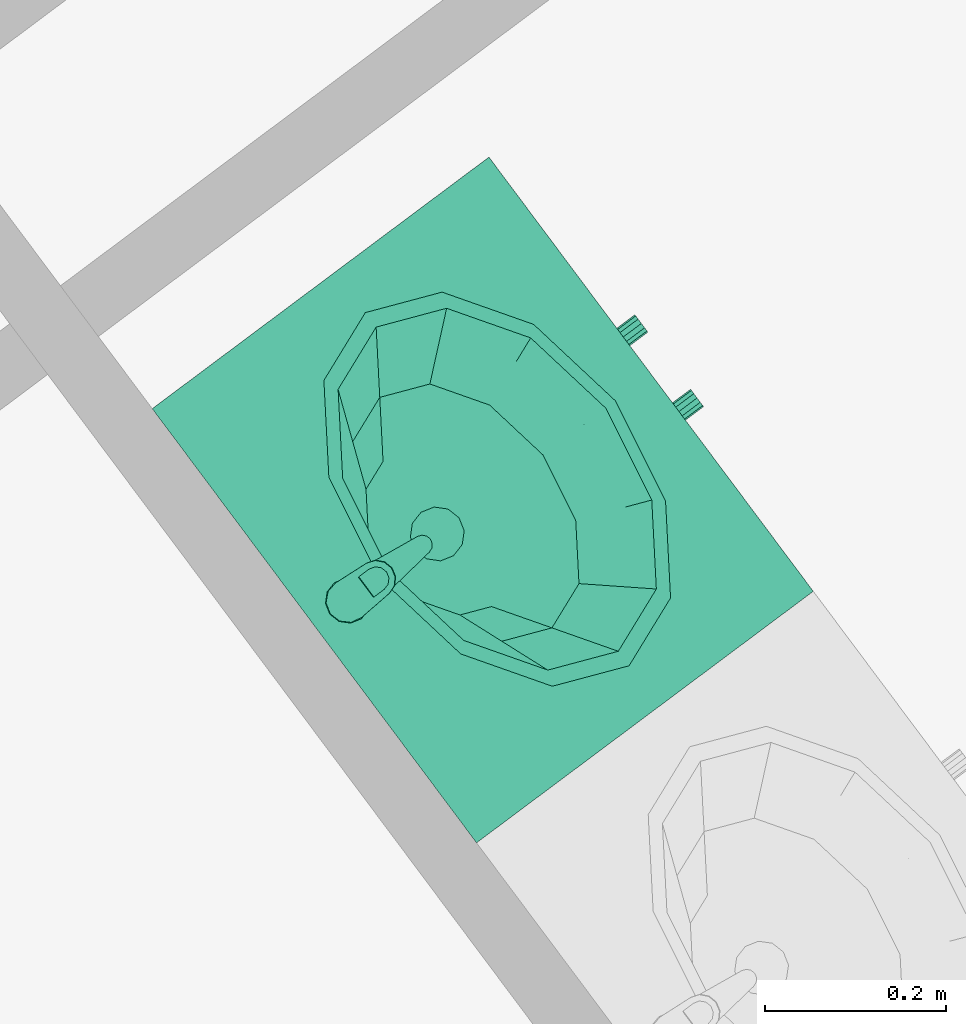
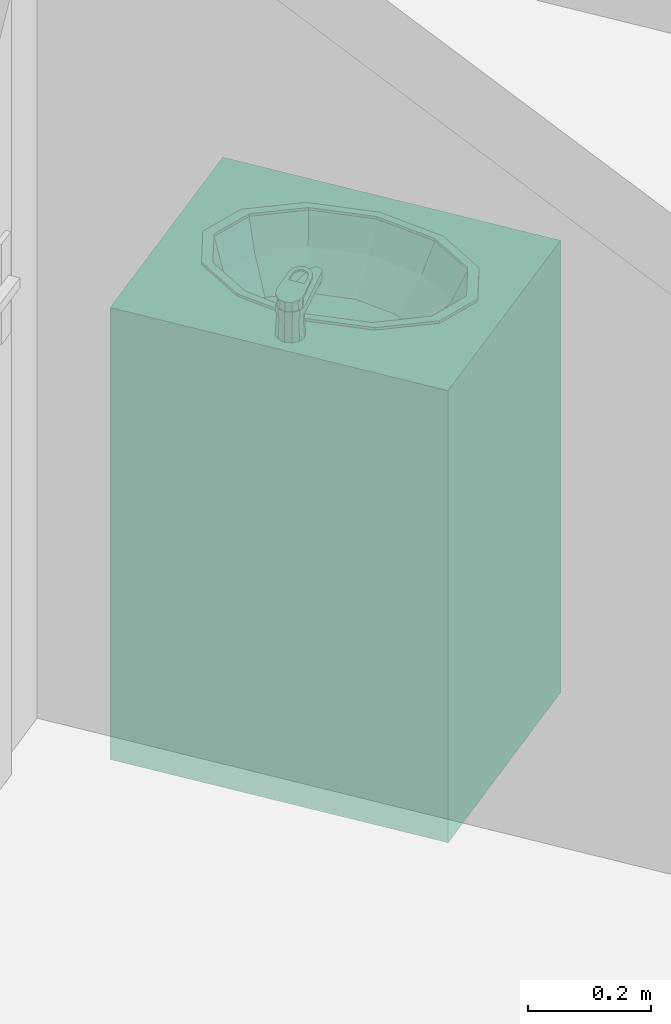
# One storey, part 133 of 195: 1 distribution element.
"""IFC2X3 building model written with IfcOpenShell, lengths in metres."""

from ifc_helpers import new_model, entity, si_unit, converted_unit, derived_unit, money_unit, direction, frame, origin_with_axes, place, context, subcontext, project, spatial, open_shell, faceted_brep, surface_model, source, transform, mapped, type_object, element, save


model = new_model("IFC2X3")

# Units and contexts
model_context = context("Model", 3, precision=1e-05, world=origin_with_axes(), true_north=direction((0.0, 1.0)))
body_context = subcontext(model_context, "Body", "Model", "MODEL_VIEW")
ifc_project = project(units=[si_unit("LENGTHUNIT", "METRE"), si_unit("AREAUNIT", "SQUARE_METRE"), si_unit("VOLUMEUNIT", "CUBIC_METRE"), converted_unit("PLANEANGLEUNIT", "DEGREE", entity("IfcPlaneAngleMeasure", 0.0174532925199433), si_unit("PLANEANGLEUNIT", "RADIAN"), dimensions=[0, 0, 0, 0, 0, 0, 0]), money_unit("CHF"), converted_unit("TIMEUNIT", "Year", entity("IfcTimeMeasure", 31557600.0), si_unit("TIMEUNIT", "SECOND"), dimensions=[0, 0, 1, 0, 0, 0, 0]), si_unit("MASSUNIT", "GRAM", prefix="KILO"), si_unit("THERMODYNAMICTEMPERATUREUNIT", "DEGREE_CELSIUS"), si_unit("LUMINOUSINTENSITYUNIT", "LUMEN"), si_unit("ENERGYUNIT", "JOULE", prefix="MEGA"), derived_unit("THERMALCONDUCTANCEUNIT", [(si_unit("POWERUNIT", "WATT"), 1), (si_unit("LENGTHUNIT", "METRE"), -1), (si_unit("THERMODYNAMICTEMPERATUREUNIT", "KELVIN"), -1)]), derived_unit("SPECIFICHEATCAPACITYUNIT", [(si_unit("ENERGYUNIT", "JOULE"), 1), (si_unit("MASSUNIT", "GRAM", prefix="KILO"), -1), (si_unit("THERMODYNAMICTEMPERATUREUNIT", "KELVIN"), -1)]), derived_unit("MASSDENSITYUNIT", [(si_unit("MASSUNIT", "GRAM", prefix="KILO"), 1), (si_unit("VOLUMEUNIT", "CUBIC_METRE"), -1)])], contexts=[model_context])

# Site, building, storey
site_placement = place(None, origin_with_axes())
site = spatial("IfcSite", under=ifc_project, at=site_placement, Name="Site", CompositionType="ELEMENT")
building_placement = place(site_placement, origin_with_axes())
building = spatial("IfcBuilding", under=site, at=building_placement, Name="Bâtiment", CompositionType="ELEMENT")
storey_placement = place(building_placement, origin_with_axes())
storey = spatial("IfcBuildingStorey", under=building, at=storey_placement, Name="rdc", CompositionType="ELEMENT", Elevation=0.0)

# Distribution element
distribution_element_type = type_object("IfcDistributionElementType", Name="Lavabo sur meuble 27")
shared_shape = source(origin_with_axes(), body_context, "Body", "SurfaceModel", [
    faceted_brep([(0.0, 0.0, 0.0), (0.0, 0.0, 0.1), (-0.6, 0.0, 0.1), (-0.6, 0.0, 0.0), (0.0, 0.4653441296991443, 0.0), (0.0, 0.4653441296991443, 0.1), (-0.6, 0.4653441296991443, 0.1), (-0.6, 0.4653441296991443, 0.0)], [[[0, 1, 2, 3]], [[4, 5, 1, 0]], [[1, 5, 6, 2]], [[3, 2, 6, 7]], [[0, 3, 7, 4]], [[7, 6, 5, 4]]]),
    faceted_brep([(0.0, 0.0, 0.1), (0.0, 0.0, 0.12), (-0.02, 0.0, 0.12), (-0.02, 0.0, 0.1), (0.0, 0.4653441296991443, 0.1), (0.0, 0.4653441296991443, 0.12), (-0.02, 0.4653441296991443, 0.12), (-0.58, 0.4653441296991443, 0.12), (-0.6, 0.4653441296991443, 0.12), (-0.6, 0.0, 0.12), (-0.58, 0.0, 0.12), (-0.58, 0.0, 0.1), (-0.6, 0.0, 0.1), (-0.6, 0.4653441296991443, 0.1), (-0.58, 0.4653441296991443, 0.1), (-0.02, 0.4653441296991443, 0.1)], [[[0, 1, 2, 3]], [[4, 5, 1, 0]], [[1, 5, 6, 7, 8, 9, 10, 2]], [[3, 2, 10, 11]], [[0, 3, 11, 12, 13, 14, 15, 4]], [[15, 6, 5, 4]], [[14, 7, 6, 15]], [[13, 8, 7, 14]], [[12, 9, 8, 13]], [[11, 10, 9, 12]]]),
    faceted_brep([(0.0, 0.0, 0.12), (0.0, 0.0, 0.85), (-0.02, 0.0, 0.85), (-0.02, 0.0, 0.12), (0.0, 0.4653441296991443, 0.12), (0.0, 0.4653441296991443, 0.85), (-0.6, 0.4653441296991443, 0.85), (-0.6, 0.0, 0.85), (-0.58, 0.0, 0.85), (-0.58, 0.4453441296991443, 0.85), (-0.02, 0.4453441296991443, 0.85), (-0.02, 0.4453441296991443, 0.12), (-0.58, 0.4453441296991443, 0.12), (-0.58, 0.0, 0.12), (-0.6, 0.0, 0.12), (-0.6, 0.4653441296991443, 0.12)], [[[0, 1, 2, 3]], [[4, 5, 1, 0]], [[1, 5, 6, 7, 8, 9, 10, 2]], [[3, 2, 10, 11]], [[0, 3, 11, 12, 13, 14, 15, 4]], [[15, 6, 5, 4]], [[14, 7, 6, 15]], [[13, 8, 7, 14]], [[12, 9, 8, 13]], [[11, 10, 9, 12]]]),
    faceted_brep([(-0.58, 0.0, 0.3233333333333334), (-0.58, 0.0, 0.3433333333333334), (-0.58, 0.4453441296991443, 0.3433333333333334), (-0.58, 0.4453441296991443, 0.3233333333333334), (-0.02, 0.0, 0.3233333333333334), (-0.02, 0.0, 0.3433333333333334), (-0.02, 0.4453441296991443, 0.3433333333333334), (-0.02, 0.4453441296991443, 0.3233333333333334)], [[[0, 1, 2, 3]], [[4, 5, 1, 0]], [[1, 5, 6, 2]], [[3, 2, 6, 7]], [[0, 3, 7, 4]], [[7, 6, 5, 4]]]),
    faceted_brep([(-0.58, 0.0, 0.5666666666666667), (-0.58, 0.0, 0.5866666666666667), (-0.58, 0.4453441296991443, 0.5866666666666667), (-0.58, 0.4453441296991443, 0.5666666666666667), (-0.02, 0.0, 0.5666666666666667), (-0.02, 0.0, 0.5866666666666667), (-0.02, 0.4453441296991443, 0.5866666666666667), (-0.02, 0.4453441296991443, 0.5666666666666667)], [[[0, 1, 2, 3]], [[4, 5, 1, 0]], [[1, 5, 6, 2]], [[3, 2, 6, 7]], [[0, 3, 7, 4]], [[7, 6, 5, 4]]]),
    faceted_brep([(0.0, 0.4653441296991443, 0.85), (0.0, 0.0, 0.85), (-0.6, 0.0, 0.85), (-0.6, 0.4653441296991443, 0.85), (-0.4124999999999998, 0.08276825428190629, 0.85), (-0.3, 0.06267206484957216, 0.85), (-0.1874999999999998, 0.08276825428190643, 0.85), (-0.1051442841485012, 0.1376720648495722, 0.85), (-0.07499999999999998, 0.2126720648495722, 0.85), (-0.1051442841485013, 0.2876720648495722, 0.85), (-0.1875000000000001, 0.342575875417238, 0.85), (-0.3, 0.3626720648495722, 0.85), (-0.4125, 0.3425758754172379, 0.85), (-0.4948557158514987, 0.2876720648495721, 0.85), (-0.525, 0.2126720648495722, 0.85), (-0.4948557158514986, 0.137672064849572, 0.85), (0.0, 0.4653441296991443, 0.9), (0.0, 0.0, 0.9), (-0.6, 0.0, 0.9), (-0.6, 0.4653441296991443, 0.9), (-0.3, 0.06267206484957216, 0.9), (-0.4124999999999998, 0.08276825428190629, 0.9), (-0.1874999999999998, 0.08276825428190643, 0.9), (-0.1051442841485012, 0.1376720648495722, 0.9), (-0.07499999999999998, 0.2126720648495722, 0.9), (-0.1051442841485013, 0.2876720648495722, 0.9), (-0.1875000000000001, 0.342575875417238, 0.9), (-0.3, 0.3626720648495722, 0.9), (-0.4125, 0.3425758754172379, 0.9), (-0.4948557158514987, 0.2876720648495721, 0.9), (-0.525, 0.2126720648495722, 0.9), (-0.4948557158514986, 0.137672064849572, 0.9)], [[[0, 1, 2, 3], [4, 5, 6, 7, 8, 9, 10, 11, 12, 13, 14, 15]], [[1, 0, 16, 17]], [[2, 1, 17, 18]], [[3, 2, 18, 19]], [[0, 3, 19, 16]], [[20, 5, 4, 21]], [[22, 6, 5, 20]], [[23, 7, 6, 22]], [[24, 8, 7, 23]], [[25, 9, 8, 24]], [[26, 10, 9, 25]], [[27, 11, 10, 26]], [[28, 12, 11, 27]], [[29, 13, 12, 28]], [[30, 14, 13, 29]], [[31, 15, 14, 30]], [[21, 4, 15, 31]], [[18, 17, 16, 19], [28, 27, 26, 25, 24, 23, 22, 20, 21, 31, 30, 29]]]),
    faceted_brep([(-0.544, 0.2126720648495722, 0.905), (-0.511310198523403, 0.2943684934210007, 0.905), (-0.511310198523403, 0.2943684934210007, 0.9), (-0.544, 0.2126720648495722, 0.9), (-0.5113101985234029, 0.1309756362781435, 0.905), (-0.4219999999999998, 0.07116969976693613, 0.905), (-0.3, 0.04927920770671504, 0.905), (-0.1779999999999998, 0.07116969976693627, 0.905), (-0.08868980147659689, 0.1309756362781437, 0.905), (-0.05599999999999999, 0.2126720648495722, 0.905), (-0.088689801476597, 0.2943684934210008, 0.905), (-0.178, 0.3541744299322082, 0.905), (-0.3, 0.3760649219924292, 0.905), (-0.422, 0.3541744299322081, 0.905), (-0.524, 0.2126720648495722, 0.905), (-0.4939896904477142, 0.2876720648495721, 0.905), (-0.412, 0.3425758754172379, 0.905), (-0.3, 0.3626720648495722, 0.905), (-0.1880000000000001, 0.342575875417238, 0.905), (-0.1060103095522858, 0.2876720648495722, 0.905), (-0.07599999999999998, 0.2126720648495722, 0.905), (-0.1060103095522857, 0.1376720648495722, 0.905), (-0.1879999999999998, 0.08276825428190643, 0.905), (-0.3, 0.06267206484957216, 0.905), (-0.4119999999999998, 0.08276825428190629, 0.905), (-0.4939896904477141, 0.137672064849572, 0.905), (-0.422, 0.3541744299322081, 0.9), (-0.3, 0.3760649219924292, 0.9), (-0.178, 0.3541744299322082, 0.9), (-0.088689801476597, 0.2943684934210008, 0.9), (-0.05599999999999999, 0.2126720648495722, 0.9), (-0.08868980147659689, 0.1309756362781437, 0.9), (-0.1779999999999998, 0.07116969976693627, 0.9), (-0.3, 0.04927920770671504, 0.9), (-0.4219999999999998, 0.07116969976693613, 0.9), (-0.5113101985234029, 0.1309756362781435, 0.9), (-0.524, 0.2126720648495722, 0.9), (-0.4939896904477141, 0.137672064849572, 0.9), (-0.4119999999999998, 0.08276825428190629, 0.9), (-0.3, 0.06267206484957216, 0.9), (-0.1879999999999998, 0.08276825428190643, 0.9), (-0.1060103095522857, 0.1376720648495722, 0.9), (-0.07599999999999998, 0.2126720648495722, 0.9), (-0.1060103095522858, 0.2876720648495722, 0.9), (-0.1880000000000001, 0.342575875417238, 0.9), (-0.3, 0.3626720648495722, 0.9), (-0.412, 0.3425758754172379, 0.9), (-0.4939896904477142, 0.2876720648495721, 0.9)], [[[0, 1, 2, 3]], [[0, 4, 5, 6, 7, 8, 9, 10, 11, 12, 13, 1], [14, 15, 16, 17, 18, 19, 20, 21, 22, 23, 24, 25]], [[1, 13, 26, 2]], [[3, 2, 26, 27, 28, 29, 30, 31, 32, 33, 34, 35], [36, 37, 38, 39, 40, 41, 42, 43, 44, 45, 46, 47]], [[4, 0, 3, 35]], [[5, 4, 35, 34]], [[6, 5, 34, 33]], [[7, 6, 33, 32]], [[8, 7, 32, 31]], [[9, 8, 31, 30]], [[10, 9, 30, 29]], [[11, 10, 29, 28]], [[12, 11, 28, 27]], [[13, 12, 27, 26]], [[15, 14, 36, 47]], [[16, 15, 47, 46]], [[17, 16, 46, 45]], [[18, 17, 45, 44]], [[19, 18, 44, 43]], [[20, 19, 43, 42]], [[21, 20, 42, 41]], [[22, 21, 41, 40]], [[23, 22, 40, 39]], [[24, 23, 39, 38]], [[25, 24, 38, 37]], [[14, 25, 37, 36]]]),
    surface_model("IfcShellBasedSurfaceModel", [(-0.3, 0.3626720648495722, 0.9), (-0.412, 0.342575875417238, 0.9), (-0.4008, 0.3445854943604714, 0.848), (-0.3, 0.3626720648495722, 0.848), (-0.4939896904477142, 0.2876720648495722, 0.9), (-0.4745907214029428, 0.2951720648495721, 0.848), (-0.1879999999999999, 0.3425758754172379, 0.9), (-0.1991999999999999, 0.3445854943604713, 0.848), (-0.524, 0.2126720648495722, 0.9), (-0.5016, 0.2276720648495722, 0.848), (-0.1060103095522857, 0.2876720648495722, 0.9), (-0.1254092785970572, 0.2951720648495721, 0.848), (-0.4939896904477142, 0.1376720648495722, 0.9), (-0.4745907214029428, 0.1601720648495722, 0.848), (-0.07599999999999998, 0.2126720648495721, 0.9), (-0.09839999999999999, 0.2276720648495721, 0.848), (-0.412, 0.08276825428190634, 0.9), (-0.4008, 0.1107586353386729, 0.848), (-0.1060103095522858, 0.1376720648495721, 0.9), (-0.1254092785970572, 0.1601720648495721, 0.848), (-0.3, 0.06267206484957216, 0.9), (-0.3, 0.09267206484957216, 0.848), (-0.1879999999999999, 0.08276825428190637, 0.9), (-0.1992, 0.110758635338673, 0.848)], [open_shell([[[0, 1, 2, 3]], [[1, 4, 5, 2]], [[6, 0, 3, 7]], [[4, 8, 9, 5]], [[10, 6, 7, 11]], [[8, 12, 13, 9]], [[14, 10, 11, 15]], [[12, 16, 17, 13]], [[18, 14, 15, 19]], [[16, 20, 21, 17]], [[22, 18, 19, 23]], [[20, 22, 23, 21]]])]),
    surface_model("IfcShellBasedSurfaceModel", [(-0.3, 0.3626720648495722, 0.848), (-0.4008, 0.3445854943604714, 0.848), (-0.379632, 0.3483836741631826, 0.7959999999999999), (-0.3, 0.3626720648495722, 0.7959999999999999), (-0.4745907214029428, 0.2951720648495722, 0.848), (-0.4379266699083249, 0.3093470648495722, 0.7959999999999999), (-0.1991999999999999, 0.3445854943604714, 0.848), (-0.2203679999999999, 0.3483836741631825, 0.7959999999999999), (-0.5016, 0.2276720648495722, 0.848), (-0.459264, 0.2560220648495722, 0.7959999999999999), (-0.1254092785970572, 0.2951720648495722, 0.848), (-0.1620733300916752, 0.3093470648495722, 0.7959999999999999), (-0.4745907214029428, 0.1601720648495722, 0.848), (-0.4379266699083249, 0.2026970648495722, 0.7959999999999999), (-0.09839999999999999, 0.2276720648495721, 0.848), (-0.140736, 0.2560220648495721, 0.7959999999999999), (-0.4008, 0.1107586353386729, 0.848), (-0.379632, 0.1636604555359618, 0.7959999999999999), (-0.1254092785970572, 0.1601720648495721, 0.848), (-0.1620733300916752, 0.2026970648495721, 0.7959999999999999), (-0.3, 0.09267206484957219, 0.848), (-0.3, 0.1493720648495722, 0.7959999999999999), (-0.1992, 0.110758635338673, 0.848), (-0.220368, 0.1636604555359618, 0.7959999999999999)], [open_shell([[[0, 1, 2, 3]], [[1, 4, 5, 2]], [[6, 0, 3, 7]], [[4, 8, 9, 5]], [[10, 6, 7, 11]], [[8, 12, 13, 9]], [[14, 10, 11, 15]], [[12, 16, 17, 13]], [[18, 14, 15, 19]], [[16, 20, 21, 17]], [[22, 18, 19, 23]], [[20, 22, 23, 21]]])]),
    surface_model("IfcShellBasedSurfaceModel", [(-0.3, 0.3626720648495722, 0.7959999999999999), (-0.379632, 0.3483836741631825, 0.7959999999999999), (-0.35016816, 0.3536703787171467, 0.7699999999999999), (-0.3, 0.3626720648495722, 0.7699999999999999), (-0.4379266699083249, 0.3093470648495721, 0.7959999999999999), (-0.3868938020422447, 0.3290773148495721, 0.7699999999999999), (-0.2203679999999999, 0.3483836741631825, 0.7959999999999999), (-0.2498318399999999, 0.3536703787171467, 0.7699999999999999), (-0.459264, 0.2560220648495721, 0.7959999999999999), (-0.40033632, 0.2954825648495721, 0.7699999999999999), (-0.1620733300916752, 0.3093470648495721, 0.7959999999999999), (-0.2131061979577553, 0.3290773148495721, 0.7699999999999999), (-0.4379266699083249, 0.2026970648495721, 0.7959999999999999), (-0.3868938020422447, 0.2618878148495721, 0.7699999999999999), (-0.140736, 0.2560220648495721, 0.7959999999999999), (-0.19966368, 0.2954825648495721, 0.7699999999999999), (-0.379632, 0.1636604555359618, 0.7959999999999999), (-0.35016816, 0.2372947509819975, 0.7699999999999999), (-0.1620733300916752, 0.2026970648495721, 0.7959999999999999), (-0.2131061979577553, 0.2618878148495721, 0.7699999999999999), (-0.3, 0.1493720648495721, 0.7959999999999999), (-0.3, 0.2282930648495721, 0.7699999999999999), (-0.220368, 0.1636604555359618, 0.7959999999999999), (-0.24983184, 0.2372947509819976, 0.7699999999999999)], [open_shell([[[0, 1, 2, 3]], [[1, 4, 5, 2]], [[6, 0, 3, 7]], [[4, 8, 9, 5]], [[10, 6, 7, 11]], [[8, 12, 13, 9]], [[14, 10, 11, 15]], [[12, 16, 17, 13]], [[18, 14, 15, 19]], [[16, 20, 21, 17]], [[22, 18, 19, 23]], [[20, 22, 23, 21]]])]),
    surface_model("IfcShellBasedSurfaceModel", [(-0.3, 0.3626720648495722, 0.7699999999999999), (-0.35016816, 0.3536703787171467, 0.7699999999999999), (-0.315, 0.3214633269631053, 0.7629999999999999), (-0.3259807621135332, 0.3104825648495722, 0.7629999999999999), (-0.3, 0.3254825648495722, 0.7629999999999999), (-0.3868938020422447, 0.3290773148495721, 0.7699999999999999), (-0.2498318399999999, 0.3536703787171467, 0.7699999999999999), (-0.33, 0.2954825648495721, 0.7629999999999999), (-0.285, 0.3214633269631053, 0.7629999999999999), (-0.40033632, 0.2954825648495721, 0.7699999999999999), (-0.2131061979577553, 0.3290773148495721, 0.7699999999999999), (-0.3259807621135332, 0.2804825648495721, 0.7629999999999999), (-0.2740192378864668, 0.3104825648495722, 0.7629999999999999), (-0.3868938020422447, 0.2618878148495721, 0.7699999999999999), (-0.19966368, 0.2954825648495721, 0.7699999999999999), (-0.315, 0.269501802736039, 0.7629999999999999), (-0.27, 0.2954825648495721, 0.7629999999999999), (-0.35016816, 0.2372947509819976, 0.7699999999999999), (-0.2131061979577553, 0.2618878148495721, 0.7699999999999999), (-0.3, 0.2654825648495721, 0.7629999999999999), (-0.2740192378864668, 0.2804825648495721, 0.7629999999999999), (-0.3, 0.2282930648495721, 0.7699999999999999), (-0.24983184, 0.2372947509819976, 0.7699999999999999), (-0.285, 0.269501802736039, 0.7629999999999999)], [open_shell([[[0, 1, 2]], [[1, 3, 2]], [[0, 2, 4]], [[1, 5, 3]], [[6, 0, 4]], [[5, 7, 3]], [[6, 4, 8]], [[5, 9, 7]], [[10, 6, 8]], [[9, 11, 7]], [[10, 8, 12]], [[9, 13, 11]], [[14, 10, 12]], [[13, 15, 11]], [[14, 12, 16]], [[13, 17, 15]], [[18, 14, 16]], [[17, 19, 15]], [[18, 16, 20]], [[17, 21, 19]], [[22, 18, 20]], [[21, 23, 19]], [[22, 20, 23]], [[21, 22, 23]]])]),
    surface_model("IfcShellBasedSurfaceModel", [(-0.33, 0.2954825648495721, 0.763), (-0.3259807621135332, 0.3104825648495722, 0.763), (-0.3259807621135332, 0.3104825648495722, 0.758), (-0.33, 0.2954825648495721, 0.758), (-0.315, 0.3214633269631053, 0.763), (-0.315, 0.3214633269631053, 0.758), (-0.3, 0.3254825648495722, 0.758), (-0.285, 0.3214633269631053, 0.758), (-0.2740192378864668, 0.3104825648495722, 0.758), (-0.27, 0.2954825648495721, 0.758), (-0.2740192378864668, 0.2804825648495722, 0.758), (-0.285, 0.269501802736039, 0.758), (-0.3, 0.2654825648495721, 0.758), (-0.3149999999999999, 0.269501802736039, 0.758), (-0.3259807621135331, 0.2804825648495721, 0.758), (-0.3259807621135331, 0.2804825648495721, 0.763), (-0.3, 0.3254825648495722, 0.763), (-0.285, 0.3214633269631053, 0.763), (-0.2740192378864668, 0.3104825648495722, 0.763), (-0.27, 0.2954825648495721, 0.763), (-0.2740192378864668, 0.2804825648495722, 0.763), (-0.285, 0.269501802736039, 0.763), (-0.3, 0.2654825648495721, 0.763), (-0.3149999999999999, 0.269501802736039, 0.763)], [open_shell([[[0, 1, 2, 3]], [[1, 4, 5, 2]], [[3, 2, 5, 6, 7, 8, 9, 10, 11, 12, 13, 14]], [[15, 0, 3, 14]], [[4, 16, 6, 5]], [[16, 17, 7, 6]], [[17, 18, 8, 7]], [[18, 19, 9, 8]], [[19, 20, 10, 9]], [[20, 21, 11, 10]], [[21, 22, 12, 11]], [[22, 23, 13, 12]], [[23, 15, 14, 13]]])]),
    faceted_brep([(-0.3125, 0.4406587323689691, 0.9), (-0.310587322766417, 0.4373458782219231, 0.976507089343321), (-0.3, 0.4402100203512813, 0.9759615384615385), (-0.3, 0.4440080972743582, 0.9), (-0.3216506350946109, 0.4315080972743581, 0.9), (-0.3182735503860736, 0.4295583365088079, 0.9779904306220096), (-0.321, 0.4190080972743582, 0.98), (-0.3181003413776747, 0.4085578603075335, 0.9819905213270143), (-0.3104141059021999, 0.400970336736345, 0.9834357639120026), (-0.3, 0.3982062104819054, 0.9839622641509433), (-0.2895858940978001, 0.400970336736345, 0.9834357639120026), (-0.2818996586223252, 0.4085578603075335, 0.9819905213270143), (-0.279, 0.4190080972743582, 0.98), (-0.2817264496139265, 0.4295583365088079, 0.9779904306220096), (-0.289412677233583, 0.4373458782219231, 0.976507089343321), (-0.2875, 0.4406587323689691, 0.9), (-0.278349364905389, 0.4315080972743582, 0.9), (-0.275, 0.4190080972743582, 0.9), (-0.278349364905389, 0.4065080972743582, 0.9), (-0.2875, 0.3973574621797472, 0.9), (-0.3, 0.3940080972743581, 0.9), (-0.3125, 0.3973574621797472, 0.9), (-0.3216506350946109, 0.4065080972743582, 0.9), (-0.325, 0.4190080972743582, 0.9)], [[[0, 1, 2, 3]], [[4, 5, 1, 0]], [[1, 5, 6, 7, 8, 9, 10, 11, 12, 13, 14, 2]], [[3, 2, 14, 15]], [[0, 3, 15, 16, 17, 18, 19, 20, 21, 22, 23, 4]], [[23, 6, 5, 4]], [[22, 7, 6, 23]], [[21, 8, 7, 22]], [[20, 9, 8, 21]], [[19, 10, 9, 20]], [[18, 11, 10, 19]], [[17, 12, 11, 18]], [[16, 13, 12, 17]], [[15, 14, 13, 16]]]),
    faceted_brep([(-0.309, 0.3160080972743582, 0.935), (-0.309, 0.3160080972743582, 0.9450000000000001), (-0.3077942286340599, 0.3205080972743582, 0.9450000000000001), (-0.3077942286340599, 0.3205080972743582, 0.935), (-0.3077942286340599, 0.3115080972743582, 0.935), (-0.3077942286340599, 0.3115080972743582, 0.9450000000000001), (-0.3045, 0.3082138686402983, 0.9450000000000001), (-0.3, 0.3070080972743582, 0.9450000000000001), (-0.2955, 0.3082138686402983, 0.9450000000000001), (-0.2922057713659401, 0.3115080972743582, 0.9450000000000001), (-0.291, 0.3160080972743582, 0.9450000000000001), (-0.2922057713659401, 0.3205080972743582, 0.9450000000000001), (-0.2955, 0.3238023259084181, 0.9450000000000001), (-0.3, 0.3250080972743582, 0.9450000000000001), (-0.3045, 0.3238023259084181, 0.9450000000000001), (-0.3045, 0.3238023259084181, 0.935), (-0.3, 0.3250080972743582, 0.935), (-0.2955, 0.3238023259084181, 0.935), (-0.2922057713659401, 0.3205080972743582, 0.935), (-0.291, 0.3160080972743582, 0.935), (-0.2922057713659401, 0.3115080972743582, 0.935), (-0.2955, 0.3082138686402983, 0.935), (-0.3, 0.3070080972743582, 0.935), (-0.3045, 0.3082138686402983, 0.935)], [[[0, 1, 2, 3]], [[4, 5, 1, 0]], [[1, 5, 6, 7, 8, 9, 10, 11, 12, 13, 14, 2]], [[3, 2, 14, 15]], [[0, 3, 15, 16, 17, 18, 19, 20, 21, 22, 23, 4]], [[23, 6, 5, 4]], [[22, 7, 6, 23]], [[21, 8, 7, 22]], [[20, 9, 8, 21]], [[19, 10, 9, 20]], [[18, 11, 10, 19]], [[17, 12, 11, 18]], [[16, 13, 12, 17]], [[15, 14, 13, 16]]]),
    faceted_brep([(-0.2871282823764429, 0.439264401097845, 0.9600000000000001), (-0.300000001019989, 0.44300807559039, 0.9600000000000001), (-0.3128717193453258, 0.4392644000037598, 0.9600000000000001), (-0.3217278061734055, 0.4292013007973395, 0.9600000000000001), (-0.3238053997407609, 0.4159581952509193, 0.9600000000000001), (-0.310912, 0.3146197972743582, 0.9600000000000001), (-0.309028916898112, 0.3097249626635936, 0.9600000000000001), (-0.3050933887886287, 0.3062584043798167, 0.9600000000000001), (-0.300000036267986, 0.305008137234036, 0.9600000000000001), (-0.2949066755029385, 0.3062583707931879, 0.9600000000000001), (-0.2909711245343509, 0.3097249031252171, 0.9600000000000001), (-0.2890880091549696, 0.3146197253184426, 0.9600000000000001), (-0.2761946, 0.4159581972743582, 0.9600000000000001), (-0.2782721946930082, 0.4292013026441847, 0.9600000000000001), (-0.311, 0.4380606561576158, 0.9600000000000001), (-0.3, 0.4410080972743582, 0.9600000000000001), (-0.289, 0.4380606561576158, 0.9600000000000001), (-0.2809474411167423, 0.4300080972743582, 0.9600000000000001), (-0.278, 0.4190080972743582, 0.9600000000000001), (-0.2809474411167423, 0.4080080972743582, 0.9600000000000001), (-0.289, 0.3999555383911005, 0.9600000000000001), (-0.3, 0.3970080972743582, 0.9600000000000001), (-0.3109999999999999, 0.3999555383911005, 0.9600000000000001), (-0.3190525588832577, 0.4080080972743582, 0.9600000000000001), (-0.322, 0.4190080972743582, 0.9600000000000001), (-0.3190525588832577, 0.4300080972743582, 0.9600000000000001), (-0.2871282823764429, 0.439264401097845, 0.9450000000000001), (-0.300000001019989, 0.44300807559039, 0.9450000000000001), (-0.3128717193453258, 0.4392644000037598, 0.9450000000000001), (-0.3217278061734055, 0.4292013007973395, 0.9450000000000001), (-0.3238053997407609, 0.4159581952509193, 0.9450000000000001), (-0.310912, 0.3146197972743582, 0.9450000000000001), (-0.309028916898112, 0.3097249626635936, 0.9450000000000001), (-0.3050933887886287, 0.3062584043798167, 0.9450000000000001), (-0.300000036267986, 0.305008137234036, 0.9450000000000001), (-0.2949066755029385, 0.3062583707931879, 0.9450000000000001), (-0.2909711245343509, 0.3097249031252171, 0.9450000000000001), (-0.2890880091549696, 0.3146197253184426, 0.9450000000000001), (-0.2761946, 0.4159581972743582, 0.9450000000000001), (-0.2782721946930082, 0.4292013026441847, 0.9450000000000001), (-0.3, 0.4417580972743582, 0.9450000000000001), (-0.311375, 0.4387101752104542, 0.9450000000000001), (-0.288625, 0.4387101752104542, 0.9450000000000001), (-0.280297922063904, 0.4303830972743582, 0.9450000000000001), (-0.2772499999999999, 0.4190080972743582, 0.9450000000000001), (-0.280297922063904, 0.4076330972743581, 0.9450000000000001), (-0.288625, 0.3993060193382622, 0.9450000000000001), (-0.3, 0.3962580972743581, 0.9450000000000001), (-0.311375, 0.3993060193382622, 0.9450000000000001), (-0.319702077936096, 0.4076330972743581, 0.9450000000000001), (-0.32275, 0.4190080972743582, 0.9450000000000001), (-0.319702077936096, 0.4303830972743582, 0.9450000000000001)], [[[0, 1, 2, 3, 4, 5, 6, 7, 8, 9, 10, 11, 12, 13], [14, 15, 16, 17, 18, 19, 20, 21, 22, 23, 24, 25]], [[26, 27, 1, 0]], [[27, 28, 2, 1]], [[28, 29, 3, 2]], [[29, 30, 4, 3]], [[30, 31, 5, 4]], [[31, 32, 6, 5]], [[32, 33, 7, 6]], [[33, 34, 8, 7]], [[34, 35, 9, 8]], [[35, 36, 10, 9]], [[36, 37, 11, 10]], [[37, 38, 12, 11]], [[38, 39, 13, 12]], [[39, 26, 0, 13]], [[40, 15, 14, 41]], [[42, 16, 15, 40]], [[16, 42, 43, 17]], [[17, 43, 44, 18]], [[18, 44, 45, 19]], [[19, 45, 46, 20]], [[20, 46, 47, 21]], [[48, 22, 21, 47]], [[49, 23, 22, 48]], [[50, 24, 23, 49]], [[51, 25, 24, 50]], [[41, 14, 25, 51]], [[34, 33, 32, 31, 30, 29, 28, 27, 26, 39, 38, 37, 36, 35], [48, 47, 46, 45, 44, 43, 42, 40, 41, 51, 50, 49]]]),
    faceted_brep([(-0.323893, 0.4173155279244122, 0.9803223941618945), (-0.323893, 0.4180639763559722, 0.9842517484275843), (-0.3212964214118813, 0.4305312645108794, 0.9818770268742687), (-0.3212964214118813, 0.4297828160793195, 0.9779476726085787), (-0.3209459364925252, 0.377171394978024, 0.9879688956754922), (-0.3209459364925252, 0.377919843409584, 0.9918982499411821), (-0.317663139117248, 0.3682421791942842, 0.9937416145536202), (-0.3100614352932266, 0.3612927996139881, 0.995065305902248), (-0.2999995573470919, 0.3587709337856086, 0.9955456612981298), (-0.289937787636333, 0.3612932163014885, 0.9950652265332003), (-0.2823363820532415, 0.3682429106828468, 0.9937414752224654), (-0.279054, 0.3779207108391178, 0.991898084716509), (-0.2761069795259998, 0.4180642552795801, 0.9842516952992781), (-0.2787037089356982, 0.4305315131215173, 0.9818769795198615), (-0.2875283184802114, 0.4398477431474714, 0.9801024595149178), (-0.3000001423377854, 0.4432885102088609, 0.9794470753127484), (-0.3124719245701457, 0.4398475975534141, 0.9801024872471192), (-0.314, 0.3942157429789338, 0.9887942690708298), (-0.286, 0.3942157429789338, 0.9887942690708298), (-0.286, 0.3794001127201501, 0.9916162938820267), (-0.2878756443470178, 0.3725237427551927, 0.9929260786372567), (-0.293, 0.3674898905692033, 0.9938849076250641), (-0.3, 0.3656473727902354, 0.9942358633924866), (-0.307, 0.3674898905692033, 0.9938849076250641), (-0.3121243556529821, 0.3725237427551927, 0.9929260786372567), (-0.314, 0.3794001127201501, 0.9916162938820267), (-0.3124719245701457, 0.4390991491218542, 0.9761731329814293), (-0.3000001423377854, 0.4425400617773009, 0.9755177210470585), (-0.2875283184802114, 0.4390992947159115, 0.976173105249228), (-0.2787037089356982, 0.4297830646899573, 0.9779476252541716), (-0.2761069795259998, 0.4173158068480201, 0.9803223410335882), (-0.279054, 0.3771722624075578, 0.9879687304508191), (-0.2823363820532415, 0.3674944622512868, 0.9898121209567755), (-0.289937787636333, 0.3605447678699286, 0.9911358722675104), (-0.2999995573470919, 0.3580224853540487, 0.9916163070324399), (-0.3100614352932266, 0.3605443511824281, 0.9911359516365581), (-0.317663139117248, 0.3674937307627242, 0.9898122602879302), (-0.314, 0.3934672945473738, 0.9848649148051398), (-0.314, 0.37865166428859, 0.9876869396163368), (-0.3121243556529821, 0.3717752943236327, 0.9889967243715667), (-0.307, 0.3667414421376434, 0.9899555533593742), (-0.3, 0.3648989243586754, 0.9903065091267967), (-0.293, 0.3667414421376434, 0.9899555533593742), (-0.2878756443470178, 0.3717752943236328, 0.9889967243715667), (-0.286, 0.37865166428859, 0.9876869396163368), (-0.286, 0.3934672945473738, 0.9848649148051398)], [[[0, 1, 2, 3]], [[4, 5, 1, 0]], [[1, 5, 6, 7, 8, 9, 10, 11, 12, 13, 14, 15, 16, 2], [17, 18, 19, 20, 21, 22, 23, 24, 25]], [[3, 2, 16, 26]], [[0, 3, 26, 27, 28, 29, 30, 31, 32, 33, 34, 35, 36, 4], [37, 38, 39, 40, 41, 42, 43, 44, 45]], [[36, 6, 5, 4]], [[35, 7, 6, 36]], [[34, 8, 7, 35]], [[33, 9, 8, 34]], [[32, 10, 9, 33]], [[31, 11, 10, 32]], [[30, 12, 11, 31]], [[29, 13, 12, 30]], [[28, 14, 13, 29]], [[27, 15, 14, 28]], [[26, 16, 15, 27]], [[45, 18, 17, 37]], [[44, 19, 18, 45]], [[43, 20, 19, 44]], [[42, 21, 20, 43]], [[41, 22, 21, 42]], [[40, 23, 22, 41]], [[39, 24, 23, 40]], [[38, 25, 24, 39]], [[37, 17, 25, 38]]]),
    surface_model("IfcShellBasedSurfaceModel", [(-0.001500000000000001, 0.0, 0.1015), (-0.2985, 0.0, 0.1015), (-0.2985, 0.0, 0.8485), (-0.001500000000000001, 0.0, 0.8485)], [open_shell([[[0, 1, 2, 3]]])]),
    faceted_brep([(-0.2588923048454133, 0.0, 0.7855), (-0.2605, 0.0, 0.7915), (-0.2588923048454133, 0.0, 0.7975), (-0.2545, 0.0, 0.8018923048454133), (-0.2485, 0.0, 0.8035), (-0.2425, 0.0, 0.8018923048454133), (-0.2381076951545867, 0.0, 0.7975), (-0.2365, 0.0, 0.7915), (-0.2381076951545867, 0.0, 0.7855), (-0.2425, 0.0, 0.7811076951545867), (-0.2485, 0.0, 0.7795), (-0.2545, 0.0, 0.7811076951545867), (-0.2588923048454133, -0.025, 0.7855), (-0.2605, -0.025, 0.7915), (-0.2588923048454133, -0.025, 0.7975), (-0.2545, -0.025, 0.8018923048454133), (-0.2485, -0.025, 0.8035), (-0.2425, -0.025, 0.8018923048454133), (-0.2381076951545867, -0.025, 0.7975), (-0.2365, -0.025, 0.7915), (-0.2381076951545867, -0.025, 0.7855), (-0.2425, -0.025, 0.7811076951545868), (-0.2485, -0.025, 0.7795), (-0.2545, -0.025, 0.7811076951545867)], [[[0, 1, 2, 3, 4, 5, 6, 7, 8, 9, 10, 11]], [[0, 12, 13, 1]], [[1, 13, 14, 2]], [[2, 14, 15, 3]], [[3, 15, 16, 4]], [[4, 16, 17, 5]], [[5, 17, 18, 6]], [[6, 18, 19, 7]], [[7, 19, 20, 8]], [[8, 20, 21, 9]], [[9, 21, 22, 10]], [[10, 22, 23, 11]], [[11, 23, 12, 0]], [[12, 23, 22, 21, 20, 19, 18, 17, 16, 15, 14, 13]]]),
    surface_model("IfcShellBasedSurfaceModel", [(-0.5985, 0.0, 0.1015), (-0.5985, 0.0, 0.8485), (-0.3015000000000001, 0.0, 0.8485), (-0.3015000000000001, 0.0, 0.1015)], [open_shell([[[0, 1, 2, 3]]])]),
    faceted_brep([(-0.3411076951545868, 0.0, 0.7855), (-0.3455, 0.0, 0.7811076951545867), (-0.3515, 0.0, 0.7795), (-0.3575, 0.0, 0.7811076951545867), (-0.3618923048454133, 0.0, 0.7855), (-0.3635, 0.0, 0.7915), (-0.3618923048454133, 0.0, 0.7975), (-0.3575, 0.0, 0.8018923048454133), (-0.3515, 0.0, 0.8035), (-0.3455, 0.0, 0.8018923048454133), (-0.3411076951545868, 0.0, 0.7975), (-0.3395, 0.0, 0.7915), (-0.3411076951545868, -0.025, 0.7855), (-0.3455, -0.025, 0.7811076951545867), (-0.3515, -0.025, 0.7795), (-0.3575, -0.025, 0.7811076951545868), (-0.3618923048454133, -0.025, 0.7855), (-0.3635, -0.025, 0.7915), (-0.3618923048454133, -0.025, 0.7975), (-0.3575, -0.025, 0.8018923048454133), (-0.3515, -0.025, 0.8035), (-0.3455, -0.025, 0.8018923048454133), (-0.3411076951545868, -0.025, 0.7975), (-0.3395, -0.025, 0.7915)], [[[0, 1, 2, 3, 4, 5, 6, 7, 8, 9, 10, 11]], [[1, 0, 12, 13]], [[2, 1, 13, 14]], [[3, 2, 14, 15]], [[4, 3, 15, 16]], [[5, 4, 16, 17]], [[6, 5, 17, 18]], [[7, 6, 18, 19]], [[8, 7, 19, 20]], [[9, 8, 20, 21]], [[10, 9, 21, 22]], [[11, 10, 22, 23]], [[0, 11, 23, 12]], [[12, 23, 22, 21, 20, 19, 18, 17, 16, 15, 14, 13]]]),
])
distribution_element_placement = place(storey_placement, frame((9539.363290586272, -1078.749175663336, 57.59999999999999), z_axis=(0.0, 0.0, 1.0), x_axis=(-0.5984464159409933, 0.8011628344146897, 0.0)))
element("IfcDistributionElement", 1, at=distribution_element_placement, inside=storey, type_object=distribution_element_type, Name="Obj.-004", context=body_context, shape_type="MappedRepresentation", body=[
    mapped(shared_shape, transform((0.0, 0.0, 0.0))),
])

save(model, "model.ifc")
